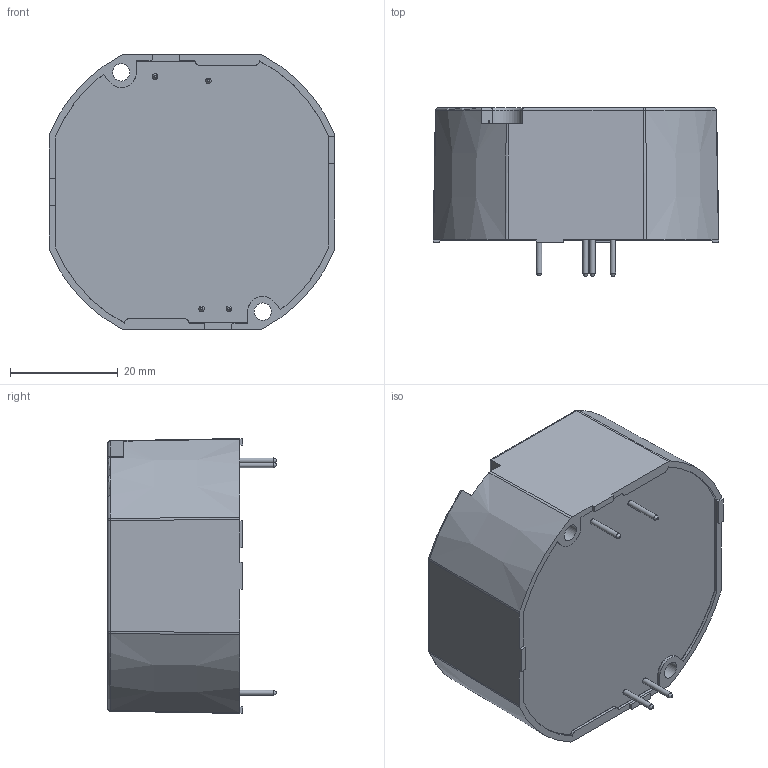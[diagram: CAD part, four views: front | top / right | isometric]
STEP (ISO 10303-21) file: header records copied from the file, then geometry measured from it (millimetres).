
FILE_DESCRIPTION(/* description */ ('Unknown'),/* implementation_level */ '2;1');
FILE_NAME(/* name */ 'TMW 24-P',/* time_stamp */ '2021-10-28T14:59:12+01:00',/* author */ ('Unknown'),/* organization */ ('Unknown'),/* preprocessor_version */ 'ST-DEVELOPER v16.7',/* originating_system */ 'Solid Edge',/* authorisation */ 'Unknown');
FILE_SCHEMA (('AUTOMOTIVE_DESIGN {1 0 10303 214 3 1 1}'));
Length unit declared in the file: millimetre
Products named in the file (1): TMW 24-P
Bounding box: 53.02 x 31.23 x 51.02 mm (x, y, z)
Volume: 10043 mm3; surface area: 19390 mm2
Topology: 1 solids, 1 shells, 196 faces, 506 edges, 331 vertices
Faces by surface type: plane 98, cylinder 50, cone 32, bspline 10, torus 6
Full cylindrical faces by diameter (mm): 0.635 x4, 1.016 x12, 1.778 x4, 2 x3, 3.2 x2
Entity records: 7246 total; most frequent: CARTESIAN_POINT 1260, DIRECTION 951, ORIENTED_EDGE 912, EDGE_CURVE 456, AXIS2_PLACEMENT_3D 359, VERTEX_POINT 318, FACE_BOUND 258, EDGE_LOOP 254
